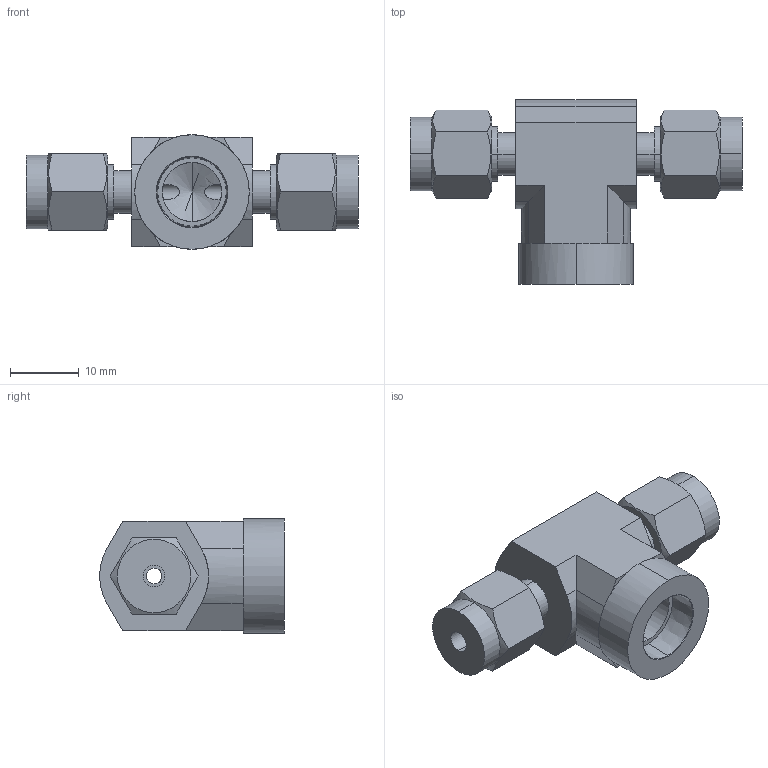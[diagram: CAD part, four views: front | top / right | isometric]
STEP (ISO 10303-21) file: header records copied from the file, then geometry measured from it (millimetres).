
FILE_DESCRIPTION (( 'STEP AP203' ), '1' );
FILE_NAME ('DTH02-02 SS.STEP', '2009-10-26T05:48:14', ( ' ' ), ( '' ), 'SwSTEP 2.0', 'SolidWorks 2008', '' );
FILE_SCHEMA (( 'CONFIG_CONTROL_DESIGN' ));
Length unit declared in the file: millimetre
Products named in the file (1): DTH02-02 SS
Bounding box: 48.4 x 26.95 x 16.7 mm (x, y, z)
Volume: 7523.1 mm3; surface area: 4247.1 mm2
Topology: 1 solids, 1 shells, 87 faces, 210 edges, 131 vertices
Faces by surface type: plane 44, cylinder 29, cone 14
Entity records: 2825 total; most frequent: CARTESIAN_POINT 737, ORIENTED_EDGE 416, DIRECTION 416, EDGE_CURVE 208, AXIS2_PLACEMENT_3D 158, VERTEX_POINT 131, VECTOR 100, LINE 100
